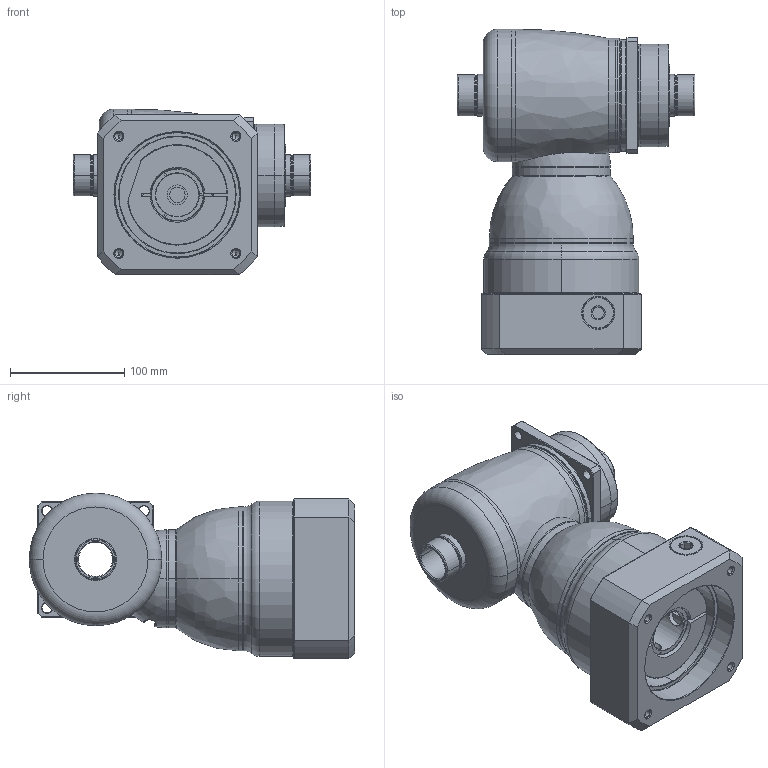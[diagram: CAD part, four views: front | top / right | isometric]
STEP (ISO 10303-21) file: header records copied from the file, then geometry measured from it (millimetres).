
FILE_DESCRIPTION((''),'2;1');
FILE_NAME('KF100_S4_1ST_38-P0409900101_ASM','2016-07-20T',('d01943'),(''),'PRO/ENGINEER BY PARAMETRIC TECHNOLOGY CORPORATION, 2008410','PRO/ENGINEER BY PARAMETRIC TECHNOLOGY CORPORATION, 2008410','');
FILE_SCHEMA(('CONFIG_CONTROL_DESIGN'));
Length unit declared in the file: millimetre
Products named in the file (11): P1008400002; P1804400001; P0914400001; P1315400001; P1007400001; P1318400501; P0409900101; P0503900012; P0912405001; 21711422019; KF100_S4_1ST_38-P0409900101_ASM
Assembly tree (10 placements, depth 2):
  KF100_S4_1ST_38-P0409900101_ASM
    P1008400002
    P1804400001
    P0914400001
    P1315400001
    P1007400001
    P1318400501
    P0409900101
    P0503900012
    P0912405001
    21711422019
Bounding box: 208.3 x 285 x 145 mm (x, y, z)
Volume: 2836857 mm3; surface area: 434754.9 mm2
Topology: 11 solids, 11 shells, 500 faces, 1108 edges, 654 vertices
Faces by surface type: cylinder 170, cone 124, plane 102, torus 66, bspline 36, sphere 2
Entity records: 19721 total; most frequent: CARTESIAN_POINT 8478, DIRECTION 2472, ORIENTED_EDGE 2180, EDGE_CURVE 1090, AXIS2_PLACEMENT_3D 1051, VERTEX_POINT 654, EDGE_LOOP 572, CIRCLE 566
